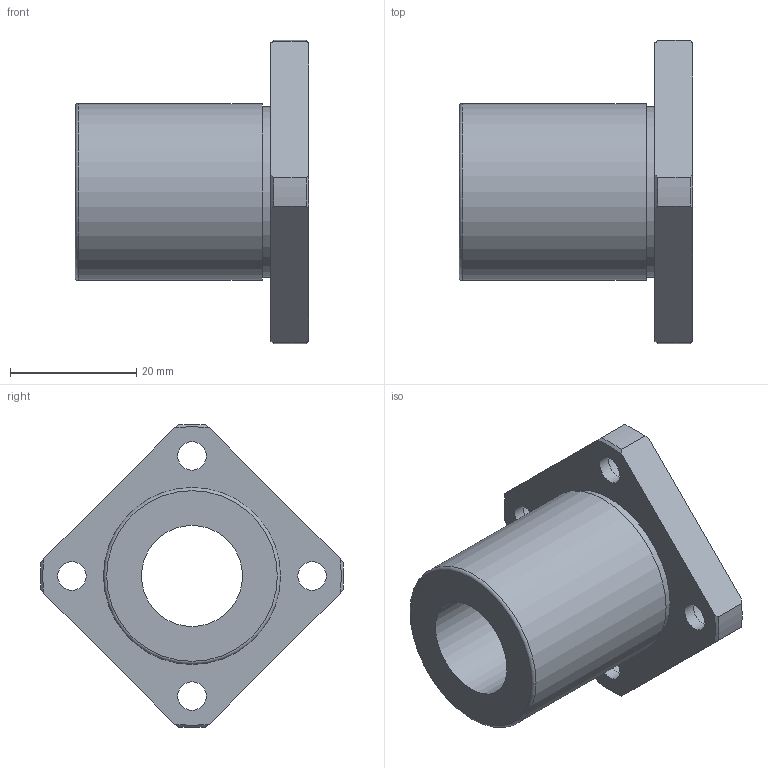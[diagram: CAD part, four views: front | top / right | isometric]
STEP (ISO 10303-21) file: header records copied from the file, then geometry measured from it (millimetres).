
FILE_DESCRIPTION(('STEP AP203'),'1');
FILE_NAME('//192.168.1.1/share/s-4 技術開発/s-4-4_CAD/s-4-4-3_見直し済み/002 修正済み/NF-V/NF-16TVUU.step','2022-03-08T06:42:19',(' '),(' '),'Spatial InterOp 3D',' ',' ');
FILE_SCHEMA(('CONFIG_CONTROL_DESIGN'));
Length unit declared in the file: millimetre
Products named in the file (1): 1
Bounding box: 37 x 47.98 x 47.98 mm (x, y, z)
Volume: 18833.5 mm3; surface area: 8146.7 mm2
Topology: 1 solids, 1 shells, 36 faces, 89 edges, 61 vertices
Faces by surface type: cylinder 15, plane 12, cone 8, torus 1
Full cylindrical faces by diameter (mm): 4.5 x4, 7.5 x4, 16 x1, 27 x1, 28 x1
Entity records: 1026 total; most frequent: CARTESIAN_POINT 195, DIRECTION 168, ORIENTED_EDGE 142, AXIS2_PLACEMENT_3D 76, EDGE_CURVE 71, EDGE_LOOP 64, VERTEX_POINT 55, FACE_OUTER_BOUND 48
